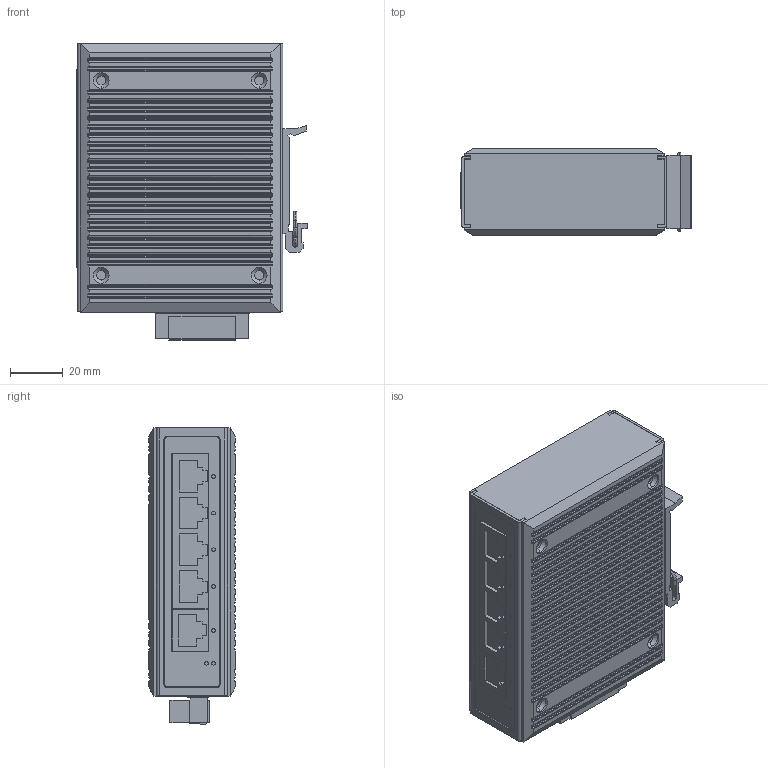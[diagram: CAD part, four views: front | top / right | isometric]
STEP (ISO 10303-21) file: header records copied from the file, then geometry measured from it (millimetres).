
FILE_DESCRIPTION (( 'STEP AP203' ), '1' );
FILE_NAME ('MIES305G-3D-240504.STEP', '2025-02-26T03:06:58', ( 'pc' ), ( 'Microsoft' ), 'SwSTEP 2.0', 'SolidWorks 2014', '' );
FILE_SCHEMA (( 'CONFIG_CONTROL_DESIGN' ));
Length unit declared in the file: millimetre
Products named in the file (1): MIES305G-3D-240504
Bounding box: 87.6 x 33 x 112.7 mm (x, y, z)
Volume: 262896.6 mm3; surface area: 35530.4 mm2
Topology: 2 solids, 15 shells, 1001 faces, 2600 edges, 1683 vertices
Faces by surface type: plane 592, cylinder 357, cone 34, torus 18
Entity records: 30301 total; most frequent: CARTESIAN_POINT 6233, ORIENTED_EDGE 5200, DIRECTION 4762, EDGE_CURVE 2600, VECTOR 1810, LINE 1810, VERTEX_POINT 1683, AXIS2_PLACEMENT_3D 1476
